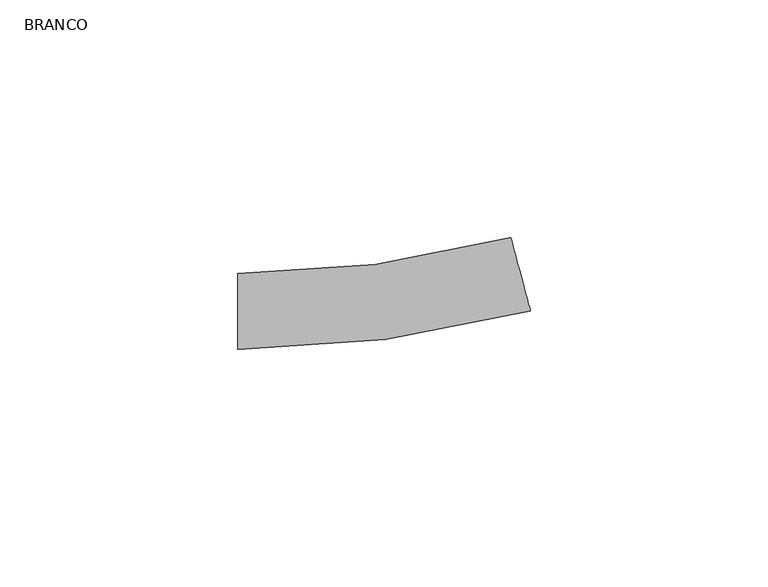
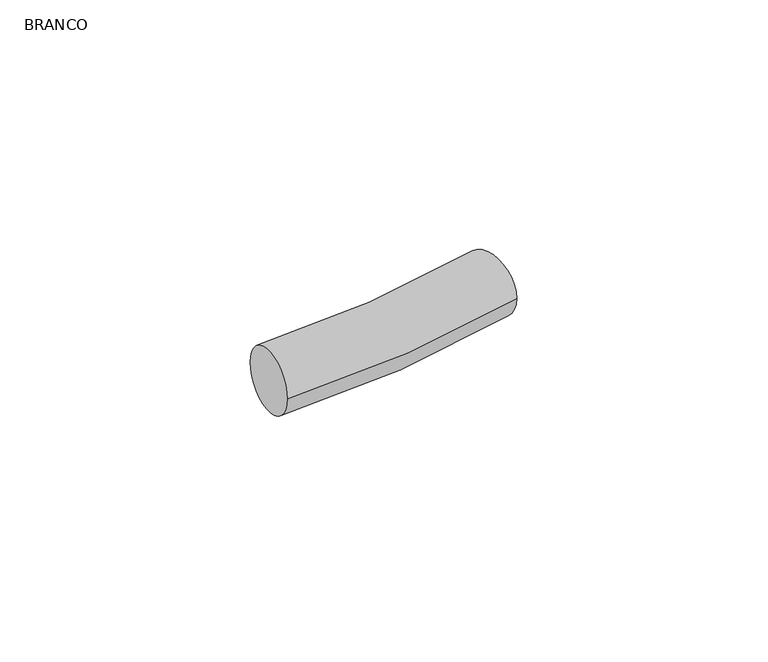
"""IFC4 building model written with IfcOpenShell, lengths in millimetres: pipe fitting geometry, AmancoWavin_ConexõesdeTubos_K5TuboFlexíveis : BRANCO."""

from ifc_helpers import new_model, si_unit, point, frame, origin, place, context, project, spatial, circle_curve, ellipse_curve, trimmed, source, transform, mapped, element, save
from ifc_brep_helpers import plane_surface, revolved_surface, advanced_brep


def branco_24b230a2(model_context):
    return source(origin(), model_context, "Body", "AdvancedBrep", [
        advanced_brep(
        [(-30.2800744, -8.0, 0.0), (-30.2800744, 8.0, 0.0), (31.3188583, 0.1096533, 0.0), (27.1777536, 15.5644666, 0.0)],
        [
            (0, 1, circle_curve(frame((-30.2800744, 0.0, 0.0), z_axis=(-1.0, 0.0, 0.0), x_axis=(0.0, 1.0, 0.0)), 8.0)),
            (1, 0, circle_curve(frame((-30.2800744, 0.0, 0.0), z_axis=(-1.0, 0.0, 0.0), x_axis=(0.0, 1.0, 0.0)), 8.0)),
            (2, 3, circle_curve(frame((29.2483059, 7.83706, 0.0), z_axis=(0.9659258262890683, 0.25881904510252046, 0.0), x_axis=(-0.25881904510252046, 0.9659258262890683, 0.0)), 8.0)),
            (3, 2, circle_curve(frame((29.2483059, 7.83706, 0.0), z_axis=(0.9659258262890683, 0.25881904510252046, 0.0), x_axis=(-0.25881904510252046, 0.9659258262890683, 0.0)), 8.0)),
            (3, 1, circle_curve(frame((-30.2800744, 230.0, 0.0), z_axis=(0.0, 0.0, -1.0), x_axis=(0.0, -1.0, 0.0)), 222.0)),
            (0, 2, circle_curve(frame((-30.2800744, 230.0, 0.0), z_axis=(0.0, 0.0, 1.0), x_axis=(0.0, -1.0, 0.0)), 238.0)),
        ],
        [
            plane_surface(frame((-30.2800744, 0.0, 0.0), z_axis=(-1.0, 0.0, 0.0), x_axis=(0.0, 0.0, 1.0))),
            plane_surface(frame((29.2483059, 7.83706, 0.0), z_axis=(0.9659258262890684, 0.2588190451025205, 0.0), x_axis=(0.0, 0.0, 1.0))),
            revolved_surface(trimmed(ellipse_curve(frame((-30.2800744, 0.0, 0.0), z_axis=(-1.0, 0.0, 0.0), x_axis=(0.0, 1.0, 0.0)), 8.0, 8.0), [point((-30.2800744, -8.0, 0.0))], [point((-30.2800744, 8.0, 0.0))], True, "CARTESIAN"), (-30.2800744, 230.0, 0.0), (0.0, 0.0, 1.0)),
            revolved_surface(trimmed(ellipse_curve(frame((-30.2800744, 0.0, 0.0), z_axis=(-1.0, 0.0, 0.0), x_axis=(0.0, 1.0, 0.0)), 8.0, 8.0), [point((-30.2800744, 8.0, 0.0))], [point((-30.2800744, -8.0, 0.0))], True, "CARTESIAN"), (-30.2800744, 230.0, 0.0), (0.0, 0.0, 1.0)),
        ],
        [
            (0, [[1, 2]]),
            (1, [[3, 4]]),
            (2, [[5, -1, 6, -4]]),
            (3, [[-6, -2, -5, -3]]),
        ],
    ),
    ])


if __name__ == "__main__":
    model = new_model("IFC4")
    model_context = context("Model", 3, world=origin())
    ifc_project = project(units=[si_unit("LENGTHUNIT", "METRE", prefix="MILLI")], contexts=[model_context])
    site = spatial("IfcSite", under=ifc_project)
    building = spatial("IfcBuilding", under=site)
    placement = place(None, origin())
    branco_shape = branco_24b230a2(model_context)
    element("IfcPipeFitting", 1, ObjectType="AmancoWavin_ConexõesdeTubos_K5TuboFlexíveis : BRANCO", at=placement, inside=building, context=model_context, shape_type="MappedRepresentation", body=[
        mapped(branco_shape, transform((0.0, 0.0, 0.0), x_axis=(1.0, 0.0, 0.0), y_axis=(0.0, 1.0, 0.0), z_axis=(0.0, 0.0, 1.0))),
    ])
    save(model, "model.ifc")
